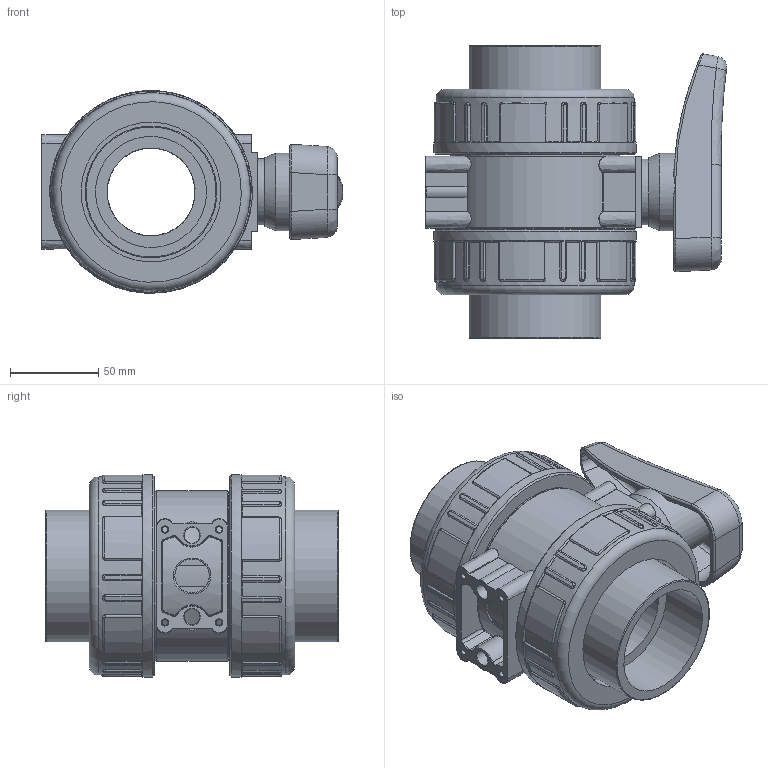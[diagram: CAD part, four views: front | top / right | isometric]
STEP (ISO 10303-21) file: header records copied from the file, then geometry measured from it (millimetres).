
FILE_DESCRIPTION(/* description */ (''),/* implementation_level */ '2;1');
FILE_NAME(/* name */ 'C:\Users\POLYPIPE\Desktop\DATASET INVENTOR\LIBRERIA EFFAST\3D_VALVOLE\3D_VALVOLE A SFERA\3D_BK1\3D_BHPBK1H\3D_BHPBK1H0630.stp',/* time_stamp */ '2018-01-25T16:47:49+01:00',/* author */ ('POLYPIPE'),/* organization */ (''),/* preprocessor_version */ 'ST-DEVELOPER v16.1',/* originating_system */ 'Autodesk Inventor 2016',/* authorisation */ '');
FILE_SCHEMA (('CONFIG_CONTROL_DESIGN'));
Products named in the file (1): 3D_BHPBK1H0630
Bounding box: 170.83 x 166 x 114.94 mm (x, y, z)
Volume: 983691.2 mm3; surface area: 195525 mm2
Topology: 2 solids, 3 shells, 679 faces, 1703 edges, 1058 vertices
Faces by surface type: bspline 209, cylinder 205, plane 203, torus 53, cone 5, sphere 4
Full cylindrical faces by diameter (mm): 9 x2, 25.1 x1, 37.4 x1, 44 x1, 49.7 x1, 50 x2, 50.3 x1, 63 x2, 74.8 x2, 79.3 x2, 89.4 x2, 95.9 x2, 96.5 x2, 112.4 x2, 115 x2
Entity records: 67682 total; most frequent: CARTESIAN_POINT 51981, ORIENTED_EDGE 3280, DIRECTION 2789, EDGE_CURVE 1638, AXIS2_PLACEMENT_3D 1085, VERTEX_POINT 1044, EDGE_LOOP 762, STYLED_ITEM 681
